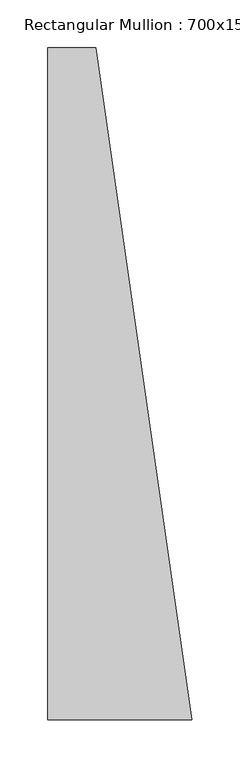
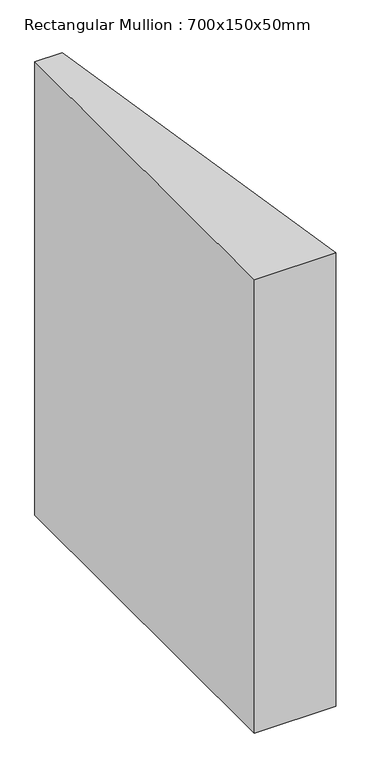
"""IFC4 building model written with IfcOpenShell, lengths in millimetres: member geometry, Rectangular Mullion : 700x150x50mm."""

from ifc_helpers import new_model, si_unit, frame, origin, place, context, project, spatial, polyline, outline, extrude, source, transform, mapped, element, save


def rectangular_mullion_700x150x50mm_40b14f73(model_context):
    return source(origin(), model_context, "Body", "SweptSolid", [
        extrude(outline(polyline([(-150.0, -350.0), (-150.0, 350.0), (-100.0, 350.0), (0.0, -350.0), (-150.0, -350.0)])), frame((0.0, 0.0, -883.3110203), z_axis=(0.0, 0.0, 1.0), x_axis=(1.0, 0.0, 0.0)), (0.0, 0.0, 1.0), 883.3110203),
    ])


if __name__ == "__main__":
    model = new_model("IFC4")
    model_context = context("Model", 3, world=origin())
    ifc_project = project(units=[si_unit("LENGTHUNIT", "METRE", prefix="MILLI")], contexts=[model_context])
    site = spatial("IfcSite", under=ifc_project)
    building = spatial("IfcBuilding", under=site)
    placement = place(None, origin())
    rectangular_mullion_700x150x50mm_shape = rectangular_mullion_700x150x50mm_40b14f73(model_context)
    element("IfcMember", 1, ObjectType="Rectangular Mullion : 700x150x50mm", at=placement, inside=building, context=model_context, shape_type="MappedRepresentation", body=[
        mapped(rectangular_mullion_700x150x50mm_shape, transform((0.0, 0.0, 0.0), x_axis=(1.0, 0.0, 0.0), y_axis=(0.0, 1.0, 0.0), z_axis=(0.0, 0.0, 1.0))),
    ])
    save(model, "model.ifc")
